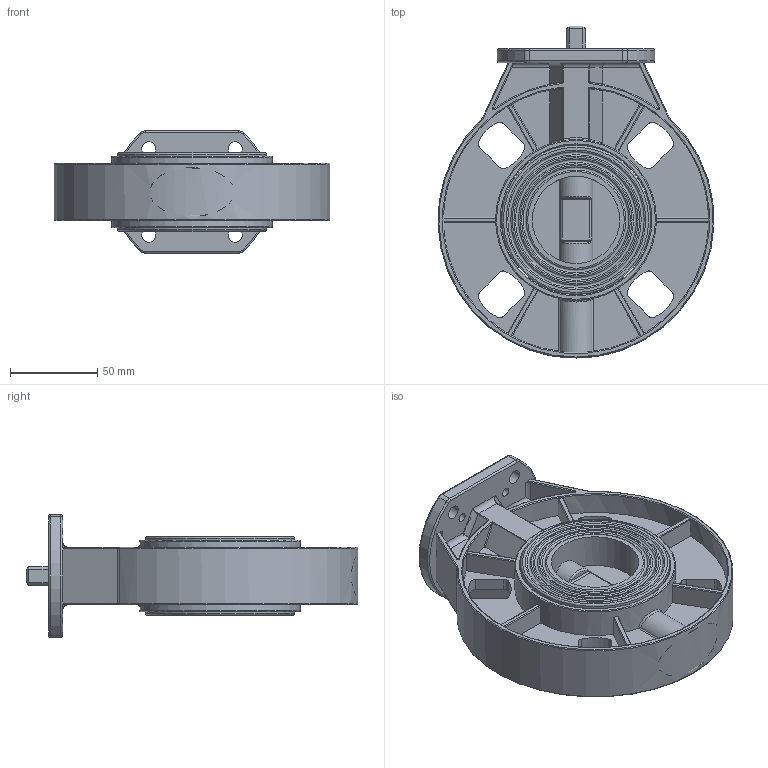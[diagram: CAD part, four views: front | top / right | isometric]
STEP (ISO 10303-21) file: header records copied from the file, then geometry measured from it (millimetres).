
FILE_DESCRIPTION(('STEP AP242'), '1');
FILE_NAME('WBV4242E-2W-Fb-ISO 青蜮铕 滂耜钼 DN.ru 捏50 畜10', '', ('UNSPECIFIED'), ('UNSPECIFIED'), 'C3D Converter', 'C3D Toolkit', '');
FILE_SCHEMA(('AP242_MANAGED_MODEL_BASED_3D_ENGINEERING_MIM_LF { 1 0 10303 442 1 1 4 }'));
Length unit declared in the file: millimetre
Products named in the file (1): WBV4242E-2W-Fb-ISO
Bounding box: 157.9 x 190 x 70 mm (x, y, z)
Volume: 433934.6 mm3; surface area: 131968.7 mm2
Topology: 2 solids, 4 shells, 434 faces, 1088 edges, 692 vertices
Faces by surface type: plane 146, cylinder 139, torus 71, bspline 51, cone 25, sphere 2
Full cylindrical faces by diameter (mm): 2.224 x2, 2.5 x2, 3 x2, 5 x4, 8 x4, 20 x2, 34.6 x1, 35 x1, 50 x2, 85.2 x1, 86 x1, 92 x2
Entity records: 32748 total; most frequent: CARTESIAN_POINT 19345, ORIENTED_EDGE 2044, DIRECTION 1912, EDGE_CURVE 1022, AXIS2_PLACEMENT_3D 780, VERTEX_POINT 690, EDGE_LOOP 556, FACE_BOUND 476
